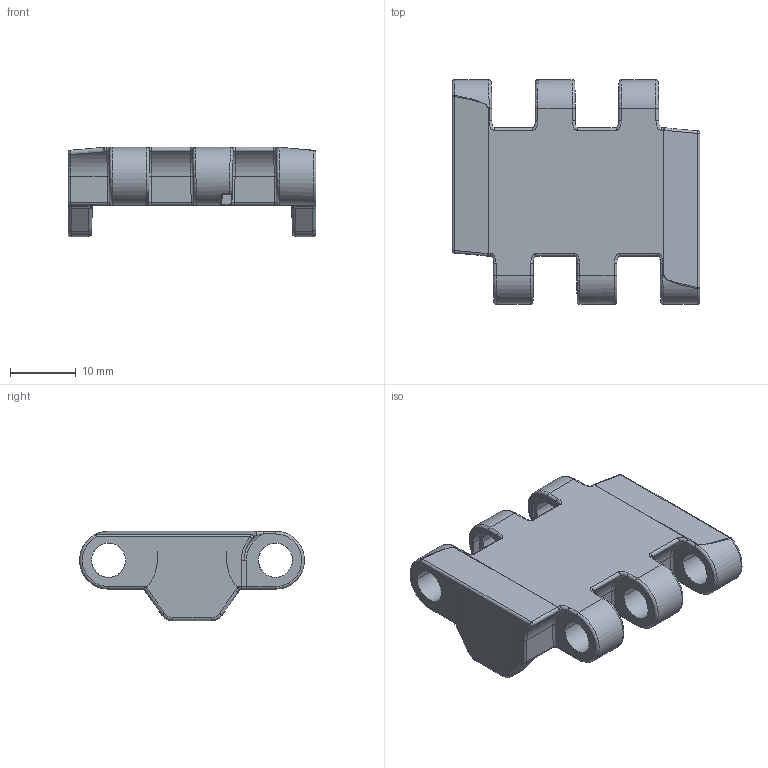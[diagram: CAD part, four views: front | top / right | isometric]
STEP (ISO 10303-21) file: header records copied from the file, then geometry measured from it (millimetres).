
FILE_DESCRIPTION((''),'2;1');
FILE_NAME('P958','2009-02-24T',('jbe'),(''),'PRO/ENGINEER BY PARAMETRIC TECHNOLOGY CORPORATION, 2008400','PRO/ENGINEER BY PARAMETRIC TECHNOLOGY CORPORATION, 2008400','');
FILE_SCHEMA(('CONFIG_CONTROL_DESIGN'));
Length unit declared in the file: millimetre
Products named in the file (1): P958
Bounding box: 37.73 x 34.2 x 13.6 mm (x, y, z)
Volume: 5941 mm3; surface area: 5290.6 mm2
Topology: 1 solids, 3 shells, 718 faces, 1791 edges, 1100 vertices
Faces by surface type: plane 356, cylinder 182, bspline 132, torus 24, sphere 20, cone 4
Entity records: 28938 total; most frequent: CARTESIAN_POINT 12736, ORIENTED_EDGE 3570, DIRECTION 3005, EDGE_CURVE 1791, VECTOR 1159, LINE 1159, VERTEX_POINT 1100, AXIS2_PLACEMENT_3D 923
